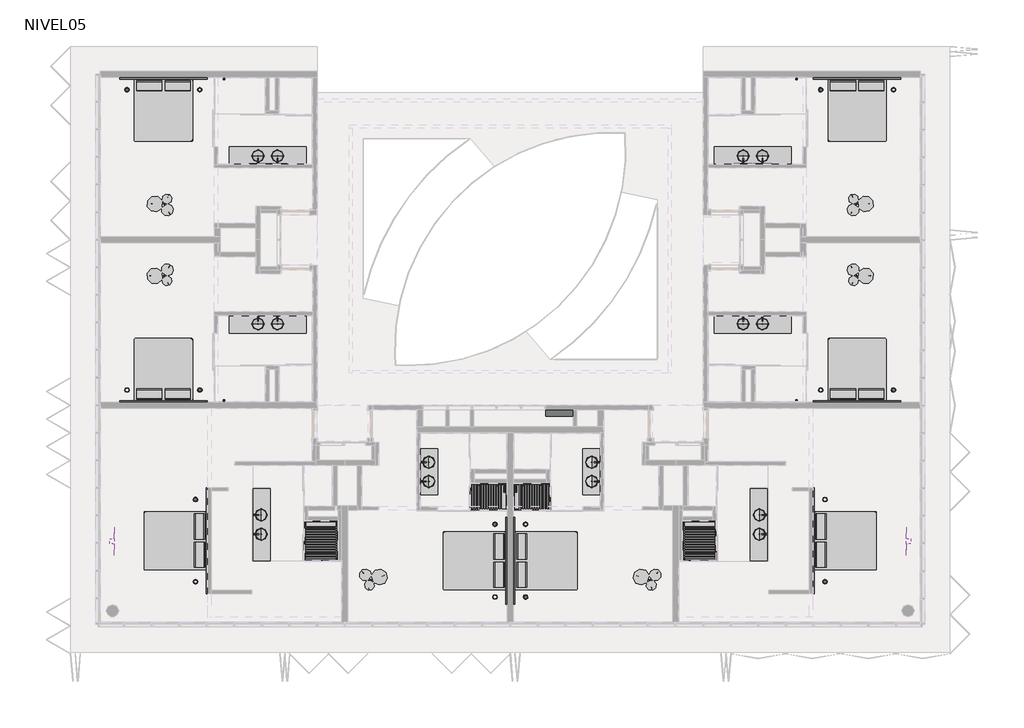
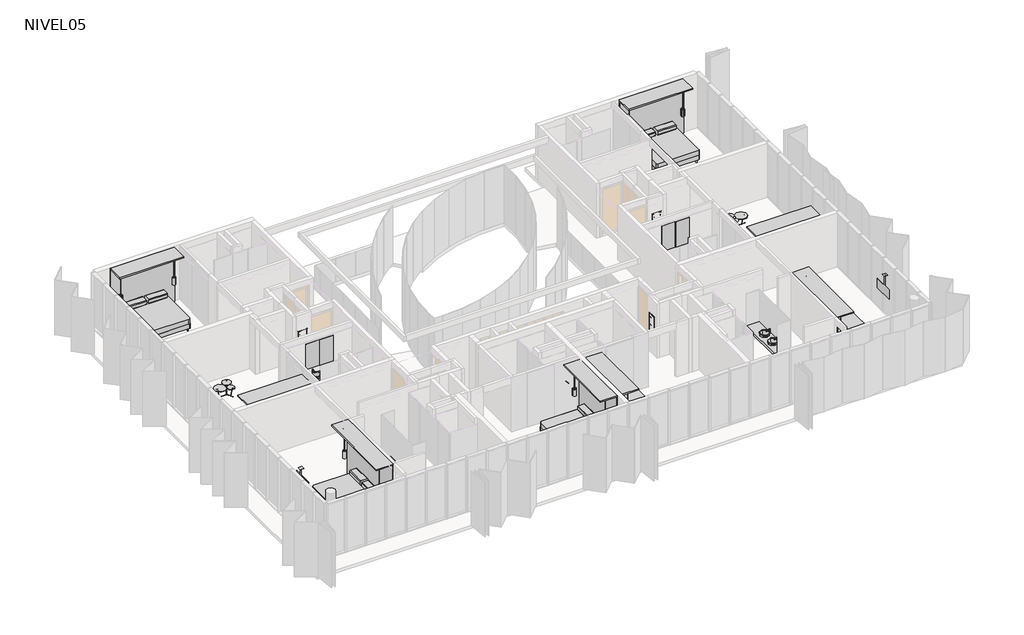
# One storey, part 8 of 8: 63 flow terminals, 16 light fixtures, 14 furniture elements, 10 proxies, 4 beams.
"""IFC4 building model written with IfcOpenShell, lengths in millimetres."""

from ifc_helpers import new_model, si_unit, frame, origin, place, context, project, spatial, polyline, outline, extrude, transform, mapped, element, save
from components import proxy_f2abb529, proxy_77f56c46, gw40109_410x878x160_c00fe912, gw40109_410x878x160_de583994, flow_terminal_0c8ecf02, flow_terminal_b279ac32, flow_terminal_ed776ef0, flow_terminal_606d7820, flow_terminal_b09b52e7, flow_terminal_6561b867, flow_terminal_bd7e037a, flow_terminal_74c15a22, flow_terminal_776c35a8, flow_terminal_72b990a2, flow_terminal_ff75b144, flow_terminal_cd0a1a3c, flow_terminal_6d8cc725, flow_terminal_ec843122, flow_terminal_4fa0bb3f, flow_terminal_b75d90eb, flow_terminal_60x_120_5cc20310, flow_terminal_60x_120_ec79c8a1, bottle_trap_flow_star_s_chrome_1cd5e6a8, bottle_trap_flow_star_s_chrome_f36f63c9, bottle_trap_flow_star_s_chrome_bf7072b5, bottle_trap_flow_star_s_chrome_7d8e5f45, gf_shower_mixer_5467fb75, gf_shower_mixer_4253410c, type_1_5bda6d84, furniture_922720f4, furniture_a362b857, furniture_83d6330f, furniture_52f5ca33, bubble_e683490c, bubble_cea61c99, lighting_fixture_pendant_contech_lighting_ci6_not_a_type_87ea05c9, lighting_fixture_pendant_contech_lighting_ci6_not_a_type_9c6e3dd4

model = new_model("IFC4")

# Units and contexts
model_context = context("Model", 3, world=origin())
ifc_project = project(units=[si_unit("LENGTHUNIT", "METRE", prefix="MILLI")], contexts=[model_context])

# Site, building, storey
site = spatial("IfcSite", under=ifc_project)
building = spatial("IfcBuilding", under=site)
storey = spatial("IfcBuildingStorey", under=building, Name="NIVEL05", Elevation=10660.0)

# Beams
placement = place(None, origin())
element("IfcBeam", 1, ObjectType="H-A- VIGAS RECTANGULARES : V. 40/30", at=placement, inside=storey, context=model_context, shape_type="SweptSolid", body=[
    extrude(outline(polyline([(-19978.5934748, 5233.9139241), (-20378.5934748, 5233.9139241), (-20378.5934748, 10433.9139241), (-19978.5934748, 10433.9139241), (-19978.5934748, 5233.9139241)])), frame((0.0, 0.0, 10340.0), z_axis=(0.0, 0.0, 1.0), x_axis=(1.0, 0.0, 0.0)), (0.0, 0.0, 1.0), 300.0),
])
element("IfcBeam", 2, ObjectType="H-A- VIGAS RECTANGULARES : V. 40/30", at=placement, inside=storey, context=model_context, shape_type="SweptSolid", body=[
    extrude(outline(polyline([(5611.4065252, 5233.9139241), (5611.4065252, 10433.9139241), (6011.4065252, 10433.9139241), (6011.4065252, 5233.9139241), (5611.4065252, 5233.9139241)])), frame((0.0, 0.0, 10340.0), z_axis=(0.0, 0.0, 1.0), x_axis=(1.0, 0.0, 0.0)), (0.0, 0.0, 1.0), 300.0),
])
element("IfcBeam", 3, ObjectType="H-A- VIGAS RECTANGULARES : V. 40/30", at=placement, inside=storey, context=model_context, shape_type="SweptSolid", body=[
    extrude(outline(polyline([(-19978.5934748, 5233.9139241), (-19978.5934748, -166.0860759), (-20378.5934748, -166.0860759), (-20378.5934748, 5233.9139241), (-19978.5934748, 5233.9139241)])), frame((0.0, 0.0, 10340.0), z_axis=(0.0, 0.0, 1.0), x_axis=(1.0, 0.0, 0.0)), (0.0, 0.0, 1.0), 300.0),
])
element("IfcBeam", 4, ObjectType="H-A- VIGAS RECTANGULARES : V. 40/30", at=placement, inside=storey, context=model_context, shape_type="SweptSolid", body=[
    extrude(outline(polyline([(5611.4065252, 5233.9139241), (6011.4065252, 5233.9139241), (6011.4065252, -166.0860759), (5611.4065252, -166.0860759), (5611.4065252, 5233.9139241)])), frame((0.0, 0.0, 10340.0), z_axis=(0.0, 0.0, 1.0), x_axis=(1.0, 0.0, 0.0)), (0.0, 0.0, 1.0), 300.0),
])

# Proxies
proxy_shape = proxy_f2abb529(model_context)
element("IfcBuildingElementProxy", 5, Name="A5215 - Bracket, Television, Ceiling Mounted 36 x 6 : A5215 - Bracket, Television, Ceiling Mounted 36\"x 6\"", ObjectType="A5215 - Bracket, Television, Ceiling Mounted 36 x 6 : A5215 - Bracket, Television, Ceiling Mounted 36\"x 6\"", at=placement, inside=storey, context=model_context, shape_type="MappedRepresentation", body=[
    mapped(proxy_shape, transform((6192.4065252, -5081.9984384, 12196.4), x_axis=(0.0, -1.0, 0.0), y_axis=(1.0, 0.0, 0.0), z_axis=(0.0, 0.0, 1.0))),
])
proxy_2_shape = proxy_77f56c46(model_context)
element("IfcBuildingElementProxy", 6, Name="A5215 - Bracket, Television, Ceiling Mounted 36 x 6 : A5215 - Bracket, Television, Ceiling Mounted 36\"x 6\"", ObjectType="A5215 - Bracket, Television, Ceiling Mounted 36 x 6 : A5215 - Bracket, Television, Ceiling Mounted 36\"x 6\"", at=placement, inside=storey, context=model_context, shape_type="MappedRepresentation", body=[
    mapped(proxy_2_shape, transform((-20559.5934748, -5081.9984384, 12196.4), x_axis=(0.0, -1.0, 0.0), y_axis=(1.0, 0.0, 0.0), z_axis=(0.0, 0.0, 1.0))),
])
gw40109_410x878x160_shape = gw40109_410x878x160_c00fe912(model_context)
element("IfcBuildingElementProxy", 7, Name="Building-ContenitoriParete-GEWISS-40CDK-CENTRALINI_IP65_4X : GW40109 - 410x878x160", ObjectType="Building-ContenitoriParete-GEWISS-40CDK-CENTRALINI_IP65_4X : GW40109 - 410x878x160", at=placement, inside=storey, context=model_context, shape_type="MappedRepresentation", body=[
    mapped(gw40109_410x878x160_shape, transform((-2718.5934748, -1918.4487945, 11410.0), x_axis=(0.0, 1.0, 0.0), y_axis=(-1.0, 0.0, 0.0), z_axis=(0.0, 0.0, 1.0))),
])
gw40109_410x878x160_2_shape = gw40109_410x878x160_de583994(model_context)
element("IfcBuildingElementProxy", 8, Name="Building-ContenitoriParete-GEWISS-40CDK-CENTRALINI_IP65_4X : GW40109 - 410x878x160", ObjectType="Building-ContenitoriParete-GEWISS-40CDK-CENTRALINI_IP65_4X : GW40109 - 410x878x160", at=placement, inside=storey, context=model_context, shape_type="MappedRepresentation", body=[
    mapped(gw40109_410x878x160_2_shape, transform((-11648.5934748, -1918.4487945, 11410.0), x_axis=(0.0, 1.0, 0.0), y_axis=(-1.0, 0.0, 0.0), z_axis=(0.0, 0.0, 1.0))),
])
element("IfcBuildingElementProxy", 9, Name="Building-ContenitoriParete-GEWISS-40CDK-CENTRALINI_IP65_4X : GW40109 - 410x878x160", ObjectType="Building-ContenitoriParete-GEWISS-40CDK-CENTRALINI_IP65_4X : GW40109 - 410x878x160", at=placement, inside=storey, context=model_context, shape_type="MappedRepresentation", body=[
    mapped(gw40109_410x878x160_shape, transform((-888.5934748, -1668.4487945, 11410.0), x_axis=(0.0, -1.0, 0.0), y_axis=(1.0, 0.0, 0.0), z_axis=(0.0, 0.0, 1.0))),
])
element("IfcBuildingElementProxy", 10, Name="Building-ContenitoriParete-GEWISS-40CDK-CENTRALINI_IP65_4X : GW40109 - 410x878x160", ObjectType="Building-ContenitoriParete-GEWISS-40CDK-CENTRALINI_IP65_4X : GW40109 - 410x878x160", at=placement, inside=storey, context=model_context, shape_type="MappedRepresentation", body=[
    mapped(gw40109_410x878x160_shape, transform((572.0878844, 6068.9139241, 11410.0), x_axis=(1.0, 0.0, 0.0), y_axis=(0.0, 1.0, 0.0), z_axis=(0.0, 0.0, 1.0))),
])
element("IfcBuildingElementProxy", 11, Name="Building-ContenitoriParete-GEWISS-40CDK-CENTRALINI_IP65_4X : GW40109 - 410x878x160", ObjectType="Building-ContenitoriParete-GEWISS-40CDK-CENTRALINI_IP65_4X : GW40109 - 410x878x160", at=placement, inside=storey, context=model_context, shape_type="MappedRepresentation", body=[
    mapped(gw40109_410x878x160_shape, transform((-14939.2748341, 4198.9139241, 11410.0), x_axis=(-1.0, 0.0, 0.0), y_axis=(0.0, -1.0, 0.0), z_axis=(0.0, 0.0, 1.0))),
])
element("IfcBuildingElementProxy", 12, Name="Building-ContenitoriParete-GEWISS-40CDK-CENTRALINI_IP65_4X : GW40109 - 410x878x160", ObjectType="Building-ContenitoriParete-GEWISS-40CDK-CENTRALINI_IP65_4X : GW40109 - 410x878x160", at=placement, inside=storey, context=model_context, shape_type="MappedRepresentation", body=[
    mapped(gw40109_410x878x160_2_shape, transform((-13478.5934748, -1668.4487945, 11410.0), x_axis=(0.0, -1.0, 0.0), y_axis=(1.0, 0.0, 0.0), z_axis=(0.0, 0.0, 1.0))),
])
element("IfcBuildingElementProxy", 13, Name="Building-ContenitoriParete-GEWISS-40CDK-CENTRALINI_IP65_4X : GW40109 - 410x878x160", ObjectType="Building-ContenitoriParete-GEWISS-40CDK-CENTRALINI_IP65_4X : GW40109 - 410x878x160", at=placement, inside=storey, context=model_context, shape_type="MappedRepresentation", body=[
    mapped(gw40109_410x878x160_2_shape, transform((-14939.2748341, 6068.9139241, 11410.0), x_axis=(-1.0, 0.0, 0.0), y_axis=(0.0, -1.0, 0.0), z_axis=(0.0, 0.0, 1.0))),
])
element("IfcBuildingElementProxy", 14, Name="Building-ContenitoriParete-GEWISS-40CDK-CENTRALINI_IP65_4X : GW40109 - 410x878x160", ObjectType="Building-ContenitoriParete-GEWISS-40CDK-CENTRALINI_IP65_4X : GW40109 - 410x878x160", at=placement, inside=storey, context=model_context, shape_type="MappedRepresentation", body=[
    mapped(gw40109_410x878x160_2_shape, transform((572.0878844, 4198.9139241, 11410.0), x_axis=(1.0, 0.0, 0.0), y_axis=(0.0, 1.0, 0.0), z_axis=(0.0, 0.0, 1.0))),
])

# Flow terminals
flow_terminal_shape = flow_terminal_0c8ecf02(model_context)
element("IfcFlowTerminal", 15, ObjectType="Sanitary_Shower-trays_Cosentino_Kador : Kador_130*125", at=placement, inside=storey, context=model_context, shape_type="MappedRepresentation", body=[
    mapped(flow_terminal_shape, transform((-13363.5934748, -4686.0862189, 10660.0), x_axis=(0.0, -1.0, 0.0), y_axis=(1.0, 0.0, 0.0), z_axis=(0.0, 0.0, 1.0))),
])
flow_terminal_2_shape = flow_terminal_b279ac32(model_context)
element("IfcFlowTerminal", 16, ObjectType="Sanitary_Shower-trays_Cosentino_Kador : Kador_130*125", at=placement, inside=storey, context=model_context, shape_type="MappedRepresentation", body=[
    mapped(flow_terminal_2_shape, transform((-1003.5934748, -4686.0862189, 10660.0), x_axis=(0.0, -1.0, 0.0), y_axis=(1.0, 0.0, 0.0), z_axis=(0.0, 0.0, 1.0))),
])
flow_terminal_3_shape = flow_terminal_ed776ef0(model_context)
element("IfcFlowTerminal", 17, ObjectType="Sanitary_Shower-trays_Cosentino_Kador : Kador_130*125", at=placement, inside=storey, context=model_context, shape_type="MappedRepresentation", body=[
    mapped(flow_terminal_3_shape, transform((-7883.5934748, -3256.0362189, 10660.0), x_axis=(-1.0, 0.0, 0.0), y_axis=(0.0, -1.0, 0.0), z_axis=(0.0, 0.0, 1.0))),
])
flow_terminal_4_shape = flow_terminal_606d7820(model_context)
element("IfcFlowTerminal", 18, ObjectType="Sanitary_Shower-trays_Cosentino_Kador : Kador_130*125", at=placement, inside=storey, context=model_context, shape_type="MappedRepresentation", body=[
    mapped(flow_terminal_4_shape, transform((-6483.5934748, -3256.0362189, 10660.0), x_axis=(1.0, 0.0, 0.0), y_axis=(0.0, 1.0, 0.0), z_axis=(0.0, 0.0, 1.0))),
])
flow_terminal_5_shape = flow_terminal_b09b52e7(model_context)
element("IfcFlowTerminal", 19, ObjectType="CUBIERTA BAÑO : CUBIERTA BAÑO 150CM", at=placement, inside=storey, context=model_context, shape_type="MappedRepresentation", body=[
    mapped(flow_terminal_5_shape, transform((-10123.5934748, -2480.7864739, 10660.0), x_axis=(0.0, 1.0, 0.0), y_axis=(-1.0, 0.0, 0.0), z_axis=(0.0, 0.0, 1.0))),
])
flow_terminal_6_shape = flow_terminal_6561b867(model_context)
element("IfcFlowTerminal", 20, ObjectType="CUBIERTA BAÑO : CUBIERTA BAÑO 250CM", at=placement, inside=storey, context=model_context, shape_type="MappedRepresentation", body=[
    mapped(flow_terminal_6_shape, transform((776.1068516, 7593.9139241, 10640.0), x_axis=(-1.0, 0.0, 0.0), y_axis=(0.0, -1.0, 0.0), z_axis=(0.0, 0.0, 1.0))),
])
element("IfcFlowTerminal", 21, ObjectType="CUBIERTA BAÑO : CUBIERTA BAÑO 250CM", at=placement, inside=storey, context=model_context, shape_type="MappedRepresentation", body=[
    mapped(flow_terminal_6_shape, transform((-15143.2938013, 2673.9139241, 10640.0), x_axis=(1.0, 0.0, 0.0), y_axis=(0.0, 1.0, 0.0), z_axis=(0.0, 0.0, 1.0))),
])
flow_terminal_7_shape = flow_terminal_bd7e037a(model_context)
element("IfcFlowTerminal", 22, ObjectType="GF_TINA-LAVAMANOS : MEZCLADOR MONOMANDO DE LAVABO - MINUSVALIDOS", at=placement, inside=storey, context=model_context, shape_type="MappedRepresentation", body=[
    mapped(flow_terminal_7_shape, transform((-10073.5934748, -2751.0861474, 11410.0), x_axis=(0.0, 1.0, 0.0), y_axis=(-1.0, 0.0, 0.0), z_axis=(0.0, 0.0, 1.0))),
])
element("IfcFlowTerminal", 23, ObjectType="GF_TINA-LAVAMANOS : MEZCLADOR MONOMANDO DE LAVABO - MINUSVALIDOS", at=placement, inside=storey, context=model_context, shape_type="MappedRepresentation", body=[
    mapped(flow_terminal_7_shape, transform((-10073.5934748, -2121.0861474, 11410.0), x_axis=(0.0, 1.0, 0.0), y_axis=(-1.0, 0.0, 0.0), z_axis=(0.0, 0.0, 1.0))),
])
element("IfcFlowTerminal", 24, ObjectType="GF_TINA-LAVAMANOS : MEZCLADOR MONOMANDO DE LAVABO - MINUSVALIDOS", at=placement, inside=storey, context=model_context, shape_type="MappedRepresentation", body=[
    mapped(flow_terminal_7_shape, transform((-15543.5934748, -4471.0860763, 11410.0), x_axis=(0.0, 1.0, 0.0), y_axis=(-1.0, 0.0, 0.0), z_axis=(0.0, 0.0, 1.0))),
])
element("IfcFlowTerminal", 25, ObjectType="GF_TINA-LAVAMANOS : MEZCLADOR MONOMANDO DE LAVABO - MINUSVALIDOS", at=placement, inside=storey, context=model_context, shape_type="MappedRepresentation", body=[
    mapped(flow_terminal_7_shape, transform((-15543.5934748, -3841.0860763, 11410.0), x_axis=(0.0, 1.0, 0.0), y_axis=(-1.0, 0.0, 0.0), z_axis=(0.0, 0.0, 1.0))),
])
element("IfcFlowTerminal", 26, ObjectType="GF_TINA-LAVAMANOS : MEZCLADOR MONOMANDO DE LAVABO - MINUSVALIDOS", at=placement, inside=storey, context=model_context, shape_type="MappedRepresentation", body=[
    mapped(flow_terminal_7_shape, transform((1046.4065252, 7643.9139241, 11390.0), x_axis=(-1.0, 0.0, 0.0), y_axis=(0.0, -1.0, 0.0), z_axis=(0.0, 0.0, 1.0))),
])
element("IfcFlowTerminal", 27, ObjectType="GF_TINA-LAVAMANOS : MEZCLADOR MONOMANDO DE LAVABO - MINUSVALIDOS", at=placement, inside=storey, context=model_context, shape_type="MappedRepresentation", body=[
    mapped(flow_terminal_7_shape, transform((416.4065252, 7643.9139241, 11390.0), x_axis=(-1.0, 0.0, 0.0), y_axis=(0.0, -1.0, 0.0), z_axis=(0.0, 0.0, 1.0))),
])
element("IfcFlowTerminal", 28, ObjectType="GF_TINA-LAVAMANOS : MEZCLADOR MONOMANDO DE LAVABO - MINUSVALIDOS", at=placement, inside=storey, context=model_context, shape_type="MappedRepresentation", body=[
    mapped(flow_terminal_7_shape, transform((-15413.5934748, 2623.9139241, 11390.0), x_axis=(1.0, 0.0, 0.0), y_axis=(0.0, 1.0, 0.0), z_axis=(0.0, 0.0, 1.0))),
])
element("IfcFlowTerminal", 29, ObjectType="GF_TINA-LAVAMANOS : MEZCLADOR MONOMANDO DE LAVABO - MINUSVALIDOS", at=placement, inside=storey, context=model_context, shape_type="MappedRepresentation", body=[
    mapped(flow_terminal_7_shape, transform((-14783.5934748, 2623.9139241, 11390.0), x_axis=(1.0, 0.0, 0.0), y_axis=(0.0, 1.0, 0.0), z_axis=(0.0, 0.0, 1.0))),
])
flow_terminal_8_shape = flow_terminal_74c15a22(model_context)
element("IfcFlowTerminal", 30, ObjectType="GF_TINA-LAVAMANOS : MEZCLADOR MONOMANDO DE LAVABO - MINUSVALIDOS", at=placement, inside=storey, context=model_context, shape_type="MappedRepresentation", body=[
    mapped(flow_terminal_8_shape, transform((-15413.5934748, 7643.9139241, 11390.0), x_axis=(1.0, 0.0, 0.0), y_axis=(0.0, 1.0, 0.0), z_axis=(0.0, 0.0, 1.0))),
])
element("IfcFlowTerminal", 31, ObjectType="GF_TINA-LAVAMANOS : MEZCLADOR MONOMANDO DE LAVABO - MINUSVALIDOS", at=placement, inside=storey, context=model_context, shape_type="MappedRepresentation", body=[
    mapped(flow_terminal_8_shape, transform((-14783.5934748, 7643.9139241, 11390.0), x_axis=(1.0, 0.0, 0.0), y_axis=(0.0, 1.0, 0.0), z_axis=(0.0, 0.0, 1.0))),
])
element("IfcFlowTerminal", 32, ObjectType="GF_TINA-LAVAMANOS : MEZCLADOR MONOMANDO DE LAVABO - MINUSVALIDOS", at=placement, inside=storey, context=model_context, shape_type="MappedRepresentation", body=[
    mapped(flow_terminal_8_shape, transform((-4293.5934748, -2751.0861474, 11410.0), x_axis=(0.0, 1.0, 0.0), y_axis=(-1.0, 0.0, 0.0), z_axis=(0.0, 0.0, 1.0))),
])
element("IfcFlowTerminal", 33, ObjectType="GF_TINA-LAVAMANOS : MEZCLADOR MONOMANDO DE LAVABO - MINUSVALIDOS", at=placement, inside=storey, context=model_context, shape_type="MappedRepresentation", body=[
    mapped(flow_terminal_8_shape, transform((-4293.5934748, -2121.0861474, 11410.0), x_axis=(0.0, 1.0, 0.0), y_axis=(-1.0, 0.0, 0.0), z_axis=(0.0, 0.0, 1.0))),
])
element("IfcFlowTerminal", 34, ObjectType="GF_TINA-LAVAMANOS : MEZCLADOR MONOMANDO DE LAVABO - MINUSVALIDOS", at=placement, inside=storey, context=model_context, shape_type="MappedRepresentation", body=[
    mapped(flow_terminal_8_shape, transform((1176.4065252, -4471.0860763, 11410.0), x_axis=(0.0, 1.0, 0.0), y_axis=(-1.0, 0.0, 0.0), z_axis=(0.0, 0.0, 1.0))),
])
element("IfcFlowTerminal", 35, ObjectType="GF_TINA-LAVAMANOS : MEZCLADOR MONOMANDO DE LAVABO - MINUSVALIDOS", at=placement, inside=storey, context=model_context, shape_type="MappedRepresentation", body=[
    mapped(flow_terminal_8_shape, transform((1176.4065252, -3841.0860763, 11410.0), x_axis=(0.0, 1.0, 0.0), y_axis=(-1.0, 0.0, 0.0), z_axis=(0.0, 0.0, 1.0))),
])
element("IfcFlowTerminal", 36, ObjectType="GF_TINA-LAVAMANOS : MEZCLADOR MONOMANDO DE LAVABO - MINUSVALIDOS", at=placement, inside=storey, context=model_context, shape_type="MappedRepresentation", body=[
    mapped(flow_terminal_8_shape, transform((1046.4065252, 2623.9139241, 11390.0), x_axis=(-1.0, 0.0, 0.0), y_axis=(0.0, -1.0, 0.0), z_axis=(0.0, 0.0, 1.0))),
])
element("IfcFlowTerminal", 37, ObjectType="GF_TINA-LAVAMANOS : MEZCLADOR MONOMANDO DE LAVABO - MINUSVALIDOS", at=placement, inside=storey, context=model_context, shape_type="MappedRepresentation", body=[
    mapped(flow_terminal_8_shape, transform((416.4065252, 2623.9139241, 11390.0), x_axis=(-1.0, 0.0, 0.0), y_axis=(0.0, -1.0, 0.0), z_axis=(0.0, 0.0, 1.0))),
])
flow_terminal_9_shape = flow_terminal_776c35a8(model_context)
element("IfcFlowTerminal", 38, ObjectType="CUBIERTA BAÑO : CUBIERTA BAÑO 238CM", at=placement, inside=storey, context=model_context, shape_type="MappedRepresentation", body=[
    mapped(flow_terminal_9_shape, transform((-15593.5934748, -4200.7864027, 10660.0), x_axis=(0.0, 1.0, 0.0), y_axis=(-1.0, 0.0, 0.0), z_axis=(0.0, 0.0, 1.0))),
])
flow_terminal_10_shape = flow_terminal_72b990a2(model_context)
element("IfcFlowTerminal", 39, ObjectType="jabonera rejilla : jabonera rejilla", at=placement, inside=storey, context=model_context, shape_type="MappedRepresentation", body=[
    mapped(flow_terminal_10_shape, transform((-7293.5934748, -3006.0862189, 11610.0), x_axis=(0.0, -1.0, 0.0), y_axis=(1.0, 0.0, 0.0), z_axis=(0.0, 0.0, 1.0))),
])
flow_terminal_11_shape = flow_terminal_ff75b144(model_context)
element("IfcFlowTerminal", 40, ObjectType="CUBIERTA BAÑO : CUBIERTA BAÑO 150CM", at=placement, inside=storey, context=model_context, shape_type="MappedRepresentation", body=[
    mapped(flow_terminal_11_shape, transform((-4243.5934748, -2480.7864739, 10660.0), x_axis=(0.0, 1.0, 0.0), y_axis=(-1.0, 0.0, 0.0), z_axis=(0.0, 0.0, 1.0))),
])
flow_terminal_12_shape = flow_terminal_cd0a1a3c(model_context)
element("IfcFlowTerminal", 41, ObjectType="CUBIERTA BAÑO : CUBIERTA BAÑO 250CM", at=placement, inside=storey, context=model_context, shape_type="MappedRepresentation", body=[
    mapped(flow_terminal_12_shape, transform((-15143.2938013, 7593.9139241, 10640.0), x_axis=(1.0, 0.0, 0.0), y_axis=(0.0, 1.0, 0.0), z_axis=(0.0, 0.0, 1.0))),
])
element("IfcFlowTerminal", 42, ObjectType="CUBIERTA BAÑO : CUBIERTA BAÑO 250CM", at=placement, inside=storey, context=model_context, shape_type="MappedRepresentation", body=[
    mapped(flow_terminal_12_shape, transform((776.1068516, 2673.9139241, 10640.0), x_axis=(-1.0, 0.0, 0.0), y_axis=(0.0, -1.0, 0.0), z_axis=(0.0, 0.0, 1.0))),
])
flow_terminal_13_shape = flow_terminal_6d8cc725(model_context)
element("IfcFlowTerminal", 43, ObjectType="CUBIERTA BAÑO : CUBIERTA BAÑO 238CM", at=placement, inside=storey, context=model_context, shape_type="MappedRepresentation", body=[
    mapped(flow_terminal_13_shape, transform((1226.4065252, -4200.7864027, 10660.0), x_axis=(0.0, 1.0, 0.0), y_axis=(-1.0, 0.0, 0.0), z_axis=(0.0, 0.0, 1.0))),
])
flow_terminal_14_shape = flow_terminal_ec843122(model_context)
element("IfcFlowTerminal", 44, ObjectType="GrapBar-60cm-Vitra-OtherSeries-320-3010 : SupportRail-Vitra-OtherSeries-320-3010", at=placement, inside=storey, context=model_context, shape_type="MappedRepresentation", body=[
    mapped(flow_terminal_14_shape, transform((-7623.5047394, -2806.0860759, 12020.0), x_axis=(-1.0, 0.0, 0.0), y_axis=(0.0, 0.0, -1.0), z_axis=(0.0, -1.0, 0.0))),
])
flow_terminal_15_shape = flow_terminal_4fa0bb3f(model_context)
element("IfcFlowTerminal", 45, ObjectType="jabonera rejilla : jabonera rejilla", at=placement, inside=storey, context=model_context, shape_type="MappedRepresentation", body=[
    mapped(flow_terminal_15_shape, transform((-7073.5934748, -3006.0862189, 11610.0), x_axis=(0.0, -1.0, 0.0), y_axis=(1.0, 0.0, 0.0), z_axis=(0.0, 0.0, 1.0))),
])
flow_terminal_16_shape = flow_terminal_b75d90eb(model_context)
element("IfcFlowTerminal", 46, ObjectType="GrapBar-60cm-Vitra-OtherSeries-320-3010 : SupportRail-Vitra-OtherSeries-320-3010", at=placement, inside=storey, context=model_context, shape_type="MappedRepresentation", body=[
    mapped(flow_terminal_16_shape, transform((-6743.6822103, -2806.0860759, 12020.0), x_axis=(1.0, 0.0, 0.0), y_axis=(0.0, 0.0, 1.0), z_axis=(0.0, -1.0, 0.0))),
])
flow_terminal_60x_120_shape = flow_terminal_60x_120_5cc20310(model_context)
element("IfcFlowTerminal", 47, ObjectType="ESPEJO RECTANGULAR : 60x 120", at=placement, inside=storey, context=model_context, shape_type="MappedRepresentation", body=[
    mapped(flow_terminal_60x_120_shape, transform((-15413.5934748, 7598.9139241, 11060.0), x_axis=(1.0, 0.0, 0.0), y_axis=(0.0, 1.0, 0.0), z_axis=(0.0, 0.0, 1.0))),
])
element("IfcFlowTerminal", 48, ObjectType="ESPEJO RECTANGULAR : 60x 120", at=placement, inside=storey, context=model_context, shape_type="MappedRepresentation", body=[
    mapped(flow_terminal_60x_120_shape, transform((-14783.5934748, 7598.9139241, 11060.0), x_axis=(1.0, 0.0, 0.0), y_axis=(0.0, 1.0, 0.0), z_axis=(0.0, 0.0, 1.0))),
])
element("IfcFlowTerminal", 49, ObjectType="ESPEJO RECTANGULAR : 60x 120", at=placement, inside=storey, context=model_context, shape_type="MappedRepresentation", body=[
    mapped(flow_terminal_60x_120_shape, transform((1046.4065252, 2668.9139241, 11060.0), x_axis=(-1.0, 0.0, 0.0), y_axis=(0.0, -1.0, 0.0), z_axis=(0.0, 0.0, 1.0))),
])
element("IfcFlowTerminal", 50, ObjectType="ESPEJO RECTANGULAR : 60x 120", at=placement, inside=storey, context=model_context, shape_type="MappedRepresentation", body=[
    mapped(flow_terminal_60x_120_shape, transform((416.4065252, 2668.9139241, 11060.0), x_axis=(-1.0, 0.0, 0.0), y_axis=(0.0, -1.0, 0.0), z_axis=(0.0, 0.0, 1.0))),
])
flow_terminal_60x_120_2_shape = flow_terminal_60x_120_ec79c8a1(model_context)
element("IfcFlowTerminal", 51, ObjectType="ESPEJO RECTANGULAR : 60x 120", at=placement, inside=storey, context=model_context, shape_type="MappedRepresentation", body=[
    mapped(flow_terminal_60x_120_2_shape, transform((1046.4065252, 7598.9139241, 11060.0), x_axis=(-1.0, 0.0, 0.0), y_axis=(0.0, -1.0, 0.0), z_axis=(0.0, 0.0, 1.0))),
])
element("IfcFlowTerminal", 52, ObjectType="ESPEJO RECTANGULAR : 60x 120", at=placement, inside=storey, context=model_context, shape_type="MappedRepresentation", body=[
    mapped(flow_terminal_60x_120_2_shape, transform((416.4065252, 7598.9139241, 11060.0), x_axis=(-1.0, 0.0, 0.0), y_axis=(0.0, -1.0, 0.0), z_axis=(0.0, 0.0, 1.0))),
])
element("IfcFlowTerminal", 53, ObjectType="ESPEJO RECTANGULAR : 60x 120", at=placement, inside=storey, context=model_context, shape_type="MappedRepresentation", body=[
    mapped(flow_terminal_60x_120_2_shape, transform((-15413.5934748, 2668.9139241, 11060.0), x_axis=(1.0, 0.0, 0.0), y_axis=(0.0, 1.0, 0.0), z_axis=(0.0, 0.0, 1.0))),
])
element("IfcFlowTerminal", 54, ObjectType="ESPEJO RECTANGULAR : 60x 120", at=placement, inside=storey, context=model_context, shape_type="MappedRepresentation", body=[
    mapped(flow_terminal_60x_120_2_shape, transform((-14783.5934748, 2668.9139241, 11060.0), x_axis=(1.0, 0.0, 0.0), y_axis=(0.0, 1.0, 0.0), z_axis=(0.0, 0.0, 1.0))),
])
bottle_trap_flow_star_s_chrome_shape = bottle_trap_flow_star_s_chrome_1cd5e6a8(model_context)
element("IfcFlowTerminal", 55, ObjectType="GF_SIFON-VESILUKKO FLOWSTAR S KROMI : Bottle trap Flow Star S chrome", at=placement, inside=storey, context=model_context, shape_type="MappedRepresentation", body=[
    mapped(bottle_trap_flow_star_s_chrome_shape, transform((-9843.5934748, -2121.0861474, 10968.0), x_axis=(1.0, 0.0, 0.0), y_axis=(0.0, 1.0, 0.0), z_axis=(0.0, 0.0, 1.0))),
])
element("IfcFlowTerminal", 56, ObjectType="GF_SIFON-VESILUKKO FLOWSTAR S KROMI : Bottle trap Flow Star S chrome", at=placement, inside=storey, context=model_context, shape_type="MappedRepresentation", body=[
    mapped(bottle_trap_flow_star_s_chrome_shape, transform((-9843.5934748, -2751.0861474, 10968.0), x_axis=(1.0, 0.0, 0.0), y_axis=(0.0, 1.0, 0.0), z_axis=(0.0, 0.0, 1.0))),
])
element("IfcFlowTerminal", 57, ObjectType="GF_SIFON-VESILUKKO FLOWSTAR S KROMI : Bottle trap Flow Star S chrome", at=placement, inside=storey, context=model_context, shape_type="MappedRepresentation", body=[
    mapped(bottle_trap_flow_star_s_chrome_shape, transform((416.4065252, 7873.9139241, 10948.0), x_axis=(0.0, 1.0, 0.0), y_axis=(-1.0, 0.0, 0.0), z_axis=(0.0, 0.0, 1.0))),
])
element("IfcFlowTerminal", 58, ObjectType="GF_SIFON-VESILUKKO FLOWSTAR S KROMI : Bottle trap Flow Star S chrome", at=placement, inside=storey, context=model_context, shape_type="MappedRepresentation", body=[
    mapped(bottle_trap_flow_star_s_chrome_shape, transform((1046.4065252, 7873.9139241, 10948.0), x_axis=(0.0, 1.0, 0.0), y_axis=(-1.0, 0.0, 0.0), z_axis=(0.0, 0.0, 1.0))),
])
element("IfcFlowTerminal", 59, ObjectType="GF_SIFON-VESILUKKO FLOWSTAR S KROMI : Bottle trap Flow Star S chrome", at=placement, inside=storey, context=model_context, shape_type="MappedRepresentation", body=[
    mapped(bottle_trap_flow_star_s_chrome_shape, transform((-14783.5934748, 2393.9139241, 10948.0), x_axis=(0.0, -1.0, 0.0), y_axis=(1.0, 0.0, 0.0), z_axis=(0.0, 0.0, 1.0))),
])
element("IfcFlowTerminal", 60, ObjectType="GF_SIFON-VESILUKKO FLOWSTAR S KROMI : Bottle trap Flow Star S chrome", at=placement, inside=storey, context=model_context, shape_type="MappedRepresentation", body=[
    mapped(bottle_trap_flow_star_s_chrome_shape, transform((-15413.5934748, 2393.9139241, 10948.0), x_axis=(0.0, -1.0, 0.0), y_axis=(1.0, 0.0, 0.0), z_axis=(0.0, 0.0, 1.0))),
])
bottle_trap_flow_star_s_chrome_2_shape = bottle_trap_flow_star_s_chrome_f36f63c9(model_context)
element("IfcFlowTerminal", 61, ObjectType="GF_SIFON-VESILUKKO FLOWSTAR S KROMI : Bottle trap Flow Star S chrome", at=placement, inside=storey, context=model_context, shape_type="MappedRepresentation", body=[
    mapped(bottle_trap_flow_star_s_chrome_2_shape, transform((-14783.5934748, 7873.9139241, 10948.0), x_axis=(0.0, 1.0, 0.0), y_axis=(-1.0, 0.0, 0.0), z_axis=(0.0, 0.0, 1.0))),
])
element("IfcFlowTerminal", 62, ObjectType="GF_SIFON-VESILUKKO FLOWSTAR S KROMI : Bottle trap Flow Star S chrome", at=placement, inside=storey, context=model_context, shape_type="MappedRepresentation", body=[
    mapped(bottle_trap_flow_star_s_chrome_2_shape, transform((-4523.5934748, -2121.0861474, 10968.0), x_axis=(-1.0, 0.0, 0.0), y_axis=(0.0, -1.0, 0.0), z_axis=(0.0, 0.0, 1.0))),
])
element("IfcFlowTerminal", 63, ObjectType="GF_SIFON-VESILUKKO FLOWSTAR S KROMI : Bottle trap Flow Star S chrome", at=placement, inside=storey, context=model_context, shape_type="MappedRepresentation", body=[
    mapped(bottle_trap_flow_star_s_chrome_2_shape, transform((-4523.5934748, -2751.0861474, 10968.0), x_axis=(-1.0, 0.0, 0.0), y_axis=(0.0, -1.0, 0.0), z_axis=(0.0, 0.0, 1.0))),
])
element("IfcFlowTerminal", 64, ObjectType="GF_SIFON-VESILUKKO FLOWSTAR S KROMI : Bottle trap Flow Star S chrome", at=placement, inside=storey, context=model_context, shape_type="MappedRepresentation", body=[
    mapped(bottle_trap_flow_star_s_chrome_2_shape, transform((-15413.5934748, 7873.9139241, 10948.0), x_axis=(0.0, 1.0, 0.0), y_axis=(-1.0, 0.0, 0.0), z_axis=(0.0, 0.0, 1.0))),
])
element("IfcFlowTerminal", 65, ObjectType="GF_SIFON-VESILUKKO FLOWSTAR S KROMI : Bottle trap Flow Star S chrome", at=placement, inside=storey, context=model_context, shape_type="MappedRepresentation", body=[
    mapped(bottle_trap_flow_star_s_chrome_2_shape, transform((416.4065252, 2393.9139241, 10948.0), x_axis=(0.0, -1.0, 0.0), y_axis=(1.0, 0.0, 0.0), z_axis=(0.0, 0.0, 1.0))),
])
element("IfcFlowTerminal", 66, ObjectType="GF_SIFON-VESILUKKO FLOWSTAR S KROMI : Bottle trap Flow Star S chrome", at=placement, inside=storey, context=model_context, shape_type="MappedRepresentation", body=[
    mapped(bottle_trap_flow_star_s_chrome_2_shape, transform((1046.4065252, 2393.9139241, 10948.0), x_axis=(0.0, -1.0, 0.0), y_axis=(1.0, 0.0, 0.0), z_axis=(0.0, 0.0, 1.0))),
])
bottle_trap_flow_star_s_chrome_3_shape = bottle_trap_flow_star_s_chrome_bf7072b5(model_context)
element("IfcFlowTerminal", 67, ObjectType="GF_SIFON-VESILUKKO FLOWSTAR S KROMI : Bottle trap Flow Star S chrome", at=placement, inside=storey, context=model_context, shape_type="MappedRepresentation", body=[
    mapped(bottle_trap_flow_star_s_chrome_3_shape, transform((946.4065252, -3841.0860763, 10968.0), x_axis=(-1.0, 0.0, 0.0), y_axis=(0.0, -1.0, 0.0), z_axis=(0.0, 0.0, 1.0))),
])
element("IfcFlowTerminal", 68, ObjectType="GF_SIFON-VESILUKKO FLOWSTAR S KROMI : Bottle trap Flow Star S chrome", at=placement, inside=storey, context=model_context, shape_type="MappedRepresentation", body=[
    mapped(bottle_trap_flow_star_s_chrome_3_shape, transform((946.4065252, -4471.0860763, 10968.0), x_axis=(-1.0, 0.0, 0.0), y_axis=(0.0, -1.0, 0.0), z_axis=(0.0, 0.0, 1.0))),
])
bottle_trap_flow_star_s_chrome_4_shape = bottle_trap_flow_star_s_chrome_7d8e5f45(model_context)
element("IfcFlowTerminal", 69, ObjectType="GF_SIFON-VESILUKKO FLOWSTAR S KROMI : Bottle trap Flow Star S chrome", at=placement, inside=storey, context=model_context, shape_type="MappedRepresentation", body=[
    mapped(bottle_trap_flow_star_s_chrome_4_shape, transform((-15313.5934748, -3841.0860763, 10968.0), x_axis=(1.0, 0.0, 0.0), y_axis=(0.0, 1.0, 0.0), z_axis=(0.0, 0.0, 1.0))),
])
element("IfcFlowTerminal", 70, ObjectType="GF_SIFON-VESILUKKO FLOWSTAR S KROMI : Bottle trap Flow Star S chrome", at=placement, inside=storey, context=model_context, shape_type="MappedRepresentation", body=[
    mapped(bottle_trap_flow_star_s_chrome_4_shape, transform((-15313.5934748, -4471.0860763, 10968.0), x_axis=(1.0, 0.0, 0.0), y_axis=(0.0, 1.0, 0.0), z_axis=(0.0, 0.0, 1.0))),
])
gf_shower_mixer_shape = gf_shower_mixer_5467fb75(model_context)
element("IfcFlowTerminal", 71, ObjectType="GF_SHOWER MIXER : Monomando ducha SPA", at=placement, inside=storey, context=model_context, shape_type="MappedRepresentation", body=[
    mapped(gf_shower_mixer_shape, transform((-16540.7120291, 10428.9139241, 10660.0), x_axis=(-1.0, 0.0, 0.0), y_axis=(0.0, -1.0, 0.0), z_axis=(0.0, 0.0, 1.0))),
])
element("IfcFlowTerminal", 72, ObjectType="GF_SHOWER MIXER : Monomando ducha SPA", at=placement, inside=storey, context=model_context, shape_type="MappedRepresentation", body=[
    mapped(gf_shower_mixer_shape, transform((-6190.7107046, -2801.0860759, 10660.0), x_axis=(-1.0, 0.0, 0.0), y_axis=(0.0, -1.0, 0.0), z_axis=(0.0, 0.0, 1.0))),
])
element("IfcFlowTerminal", 73, ObjectType="GF_SHOWER MIXER : Monomando ducha SPA", at=placement, inside=storey, context=model_context, shape_type="MappedRepresentation", body=[
    mapped(gf_shower_mixer_shape, transform((2173.5250794, -161.0860759, 10660.0), x_axis=(1.0, 0.0, 0.0), y_axis=(0.0, 1.0, 0.0), z_axis=(0.0, 0.0, 1.0))),
])
gf_shower_mixer_2_shape = gf_shower_mixer_4253410c(model_context)
element("IfcFlowTerminal", 74, ObjectType="GF_SHOWER MIXER : Monomando ducha SPA", at=placement, inside=storey, context=model_context, shape_type="MappedRepresentation", body=[
    mapped(gf_shower_mixer_2_shape, transform((-8176.4762451, -2801.0860759, 10660.0), x_axis=(1.0, 0.0, 0.0), y_axis=(0.0, 1.0, 0.0), z_axis=(0.0, 0.0, 1.0))),
])
element("IfcFlowTerminal", 75, ObjectType="GF_SHOWER MIXER : Monomando ducha SPA", at=placement, inside=storey, context=model_context, shape_type="MappedRepresentation", body=[
    mapped(gf_shower_mixer_2_shape, transform((2173.5250794, 10428.9139241, 10660.0), x_axis=(1.0, 0.0, 0.0), y_axis=(0.0, 1.0, 0.0), z_axis=(0.0, 0.0, 1.0))),
])
element("IfcFlowTerminal", 76, ObjectType="GF_SHOWER MIXER : Monomando ducha SPA", at=placement, inside=storey, context=model_context, shape_type="MappedRepresentation", body=[
    mapped(gf_shower_mixer_2_shape, transform((-16540.7120291, -161.0860759, 10660.0), x_axis=(-1.0, 0.0, 0.0), y_axis=(0.0, -1.0, 0.0), z_axis=(0.0, 0.0, 1.0))),
])
type_1_shape = type_1_5bda6d84(model_context)
element("IfcFlowTerminal", 77, ObjectType="GABINETE-BASADOEN MURO : Type 1", at=placement, inside=storey, context=model_context, shape_type="MappedRepresentation", body=[
    mapped(type_1_shape, transform((-5708.5934748, -341.0860759, 10660.0), x_axis=(1.0, 0.0, 0.0), y_axis=(0.0, 1.0, 0.0), z_axis=(0.0, 0.0, 1.0))),
])

# Furniture
furniture_shape = furniture_922720f4(model_context)
element("IfcFurniture", 78, ObjectType="CAMA HABITACIONES : 180cmx200cmx60cm (dos camas)", at=placement, inside=storey, context=model_context, shape_type="MappedRepresentation", body=[
    mapped(furniture_shape, transform((3706.8114432, -4952.5543879, 10660.0), x_axis=(0.0, 1.0, 0.0), y_axis=(-1.0, 0.0, 0.0), z_axis=(0.0, 0.0, 1.0))),
])
furniture_2_shape = furniture_a362b857(model_context)
element("IfcFurniture", 79, ObjectType="CAMA HABITACIONES : 180cmx200cmx60cm (dos camas) 3", at=placement, inside=storey, context=model_context, shape_type="MappedRepresentation", body=[
    mapped(furniture_2_shape, transform((-6061.6918102, -5607.5746005, 10660.0), x_axis=(0.0, 1.0, 0.0), y_axis=(-1.0, 0.0, 0.0), z_axis=(0.0, 0.0, 1.0))),
])
element("IfcFurniture", 80, ObjectType="CAMA HABITACIONES : 180cmx200cmx60cm (dos camas) 3", at=placement, inside=storey, context=model_context, shape_type="MappedRepresentation", body=[
    mapped(furniture_2_shape, transform((-18775.0819994, 9413.509006, 10660.0), x_axis=(1.0, 0.0, 0.0), y_axis=(0.0, 1.0, 0.0), z_axis=(0.0, 0.0, 1.0))),
])
element("IfcFurniture", 81, ObjectType="CAMA HABITACIONES : 180cmx200cmx60cm (dos camas) 3", at=placement, inside=storey, context=model_context, shape_type="MappedRepresentation", body=[
    mapped(furniture_2_shape, transform((4407.8950497, 854.3188421, 10660.0), x_axis=(-1.0, 0.0, 0.0), y_axis=(0.0, -1.0, 0.0), z_axis=(0.0, 0.0, 1.0))),
])
furniture_3_shape = furniture_83d6330f(model_context)
element("IfcFurniture", 82, ObjectType="CAMA HABITACIONES : 180cmx200cmx60cm (dos camas)", at=placement, inside=storey, context=model_context, shape_type="MappedRepresentation", body=[
    mapped(furniture_3_shape, transform((-18073.9983929, -4952.5543879, 10660.0), x_axis=(0.0, 1.0, 0.0), y_axis=(-1.0, 0.0, 0.0), z_axis=(0.0, 0.0, 1.0))),
])
furniture_4_shape = furniture_52f5ca33(model_context)
element("IfcFurniture", 83, ObjectType="CAMA HABITACIONES : 180cmx200cmx60cm (dos camas) 3", at=placement, inside=storey, context=model_context, shape_type="MappedRepresentation", body=[
    mapped(furniture_4_shape, transform((-8305.4951395, -5607.5746005, 10660.0), x_axis=(0.0, 1.0, 0.0), y_axis=(-1.0, 0.0, 0.0), z_axis=(0.0, 0.0, 1.0))),
])
element("IfcFurniture", 84, ObjectType="CAMA HABITACIONES : 180cmx200cmx60cm (dos camas) 3", at=placement, inside=storey, context=model_context, shape_type="MappedRepresentation", body=[
    mapped(furniture_4_shape, transform((4407.8950497, 9413.509006, 10660.0), x_axis=(-1.0, 0.0, 0.0), y_axis=(0.0, -1.0, 0.0), z_axis=(0.0, 0.0, 1.0))),
])
element("IfcFurniture", 85, ObjectType="CAMA HABITACIONES : 180cmx200cmx60cm (dos camas) 3", at=placement, inside=storey, context=model_context, shape_type="MappedRepresentation", body=[
    mapped(furniture_4_shape, transform((-18775.0819994, 854.3188421, 10660.0), x_axis=(1.0, 0.0, 0.0), y_axis=(0.0, 1.0, 0.0), z_axis=(0.0, 0.0, 1.0))),
])
bubble_shape = bubble_e683490c(model_context)
element("IfcFurniture", 86, ObjectType="Furniture_Tables_Bla-Station_Bubble : Bubble", at=placement, inside=storey, context=model_context, shape_type="MappedRepresentation", body=[
    mapped(bubble_shape, transform((-2734.3349877, -5887.101012, 10660.0), x_axis=(0.9535509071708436, -0.3012319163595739, 0.0), y_axis=(0.3012319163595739, 0.9535509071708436, 0.0), z_axis=(0.0, 0.0, 1.0))),
])
element("IfcFurniture", 87, ObjectType="Furniture_Tables_Bla-Station_Bubble : Bubble", at=placement, inside=storey, context=model_context, shape_type="MappedRepresentation", body=[
    mapped(bubble_shape, transform((4241.4065252, 6273.9139241, 10660.0), x_axis=(-1.0, 0.0, 0.0), y_axis=(0.0, -1.0, 0.0), z_axis=(0.0, 0.0, 1.0))),
])
element("IfcFurniture", 88, ObjectType="Furniture_Tables_Bla-Station_Bubble : Bubble", at=placement, inside=storey, context=model_context, shape_type="MappedRepresentation", body=[
    mapped(bubble_shape, transform((-18608.5934748, 3993.9139241, 10660.0), x_axis=(1.0, 0.0, 0.0), y_axis=(0.0, 1.0, 0.0), z_axis=(0.0, 0.0, 1.0))),
])
bubble_2_shape = bubble_cea61c99(model_context)
element("IfcFurniture", 89, ObjectType="Furniture_Tables_Bla-Station_Bubble : Bubble", at=placement, inside=storey, context=model_context, shape_type="MappedRepresentation", body=[
    mapped(bubble_2_shape, transform((-11632.851962, -5887.101012, 10660.0), x_axis=(-0.9535509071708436, -0.301231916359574, 0.0), y_axis=(0.301231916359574, -0.9535509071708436, 0.0), z_axis=(0.0, 0.0, 1.0))),
])
element("IfcFurniture", 90, ObjectType="Furniture_Tables_Bla-Station_Bubble : Bubble", at=placement, inside=storey, context=model_context, shape_type="MappedRepresentation", body=[
    mapped(bubble_2_shape, transform((-18608.5934748, 6273.9139241, 10660.0), x_axis=(1.0, 0.0, 0.0), y_axis=(0.0, 1.0, 0.0), z_axis=(0.0, 0.0, 1.0))),
])
element("IfcFurniture", 91, ObjectType="Furniture_Tables_Bla-Station_Bubble : Bubble", at=placement, inside=storey, context=model_context, shape_type="MappedRepresentation", body=[
    mapped(bubble_2_shape, transform((4241.4065252, 3993.9139241, 10660.0), x_axis=(-1.0, 0.0, 0.0), y_axis=(0.0, -1.0, 0.0), z_axis=(0.0, 0.0, 1.0))),
])

# Light fixtures
lighting_fixture_pendant_contech_lighting_ci6_not_a_type_shape = lighting_fixture_pendant_contech_lighting_ci6_not_a_type_87ea05c9(model_context)
element("IfcLightFixture", 92, ObjectType="Lighting_Fixture-Pendant-ConTech_Lighting-CI6 : Not A Type - Load Type Catalog", at=placement, inside=storey, context=model_context, shape_type="MappedRepresentation", body=[
    mapped(lighting_fixture_pendant_contech_lighting_ci6_not_a_type_shape, transform((-6682.0967282, -6523.5860759, 13140.0799139), x_axis=(-1.0, 0.0, 0.0), y_axis=(0.0, 1.0, 0.0), z_axis=(0.0, 0.0, -1.0))),
])
element("IfcLightFixture", 93, ObjectType="Lighting_Fixture-Pendant-ConTech_Lighting-CI6 : Not A Type - Load Type Catalog", at=placement, inside=storey, context=model_context, shape_type="MappedRepresentation", body=[
    mapped(lighting_fixture_pendant_contech_lighting_ci6_not_a_type_shape, transform((-7685.0902215, -4148.5860759, 13140.0799139), x_axis=(1.0, 0.0, 0.0), y_axis=(0.0, -1.0, 0.0), z_axis=(0.0, 0.0, -1.0))),
])
element("IfcLightFixture", 94, ObjectType="Lighting_Fixture-Pendant-ConTech_Lighting-CI6 : Not A Type - Load Type Catalog", at=placement, inside=storey, context=model_context, shape_type="MappedRepresentation", body=[
    mapped(lighting_fixture_pendant_contech_lighting_ci6_not_a_type_shape, transform((-19691.0934748, 10033.9139241, 13140.0799139), x_axis=(0.0, 1.0, 0.0), y_axis=(1.0, 0.0, 0.0), z_axis=(0.0, 0.0, -1.0))),
])
element("IfcLightFixture", 95, ObjectType="Lighting_Fixture-Pendant-ConTech_Lighting-CI6 : Not A Type - Load Type Catalog", at=placement, inside=storey, context=model_context, shape_type="MappedRepresentation", body=[
    mapped(lighting_fixture_pendant_contech_lighting_ci6_not_a_type_shape, transform((3086.4065252, -6021.0658633, 13140.0799139), x_axis=(-1.0, 0.0, 0.0), y_axis=(0.0, 1.0, 0.0), z_axis=(0.0, 0.0, -1.0))),
])
element("IfcLightFixture", 96, ObjectType="Lighting_Fixture-Pendant-ConTech_Lighting-CI6 : Not A Type - Load Type Catalog", at=placement, inside=storey, context=model_context, shape_type="MappedRepresentation", body=[
    mapped(lighting_fixture_pendant_contech_lighting_ci6_not_a_type_shape, transform((-17453.5934748, -3341.0658633, 13140.0799139), x_axis=(1.0, 0.0, 0.0), y_axis=(0.0, -1.0, 0.0), z_axis=(0.0, 0.0, -1.0))),
])
element("IfcLightFixture", 97, ObjectType="Lighting_Fixture-Pendant-ConTech_Lighting-CI6 : Not A Type - Load Type Catalog", at=placement, inside=storey, context=model_context, shape_type="MappedRepresentation", body=[
    mapped(lighting_fixture_pendant_contech_lighting_ci6_not_a_type_shape, transform((2948.9065252, 10033.9139241, 13140.0799139), x_axis=(0.0, 1.0, 0.0), y_axis=(1.0, 0.0, 0.0), z_axis=(0.0, 0.0, -1.0))),
])
element("IfcLightFixture", 98, ObjectType="Lighting_Fixture-Pendant-ConTech_Lighting-CI6 : Not A Type - Load Type Catalog", at=placement, inside=storey, context=model_context, shape_type="MappedRepresentation", body=[
    mapped(lighting_fixture_pendant_contech_lighting_ci6_not_a_type_shape, transform((-17316.0934748, 233.9139241, 13140.0799139), x_axis=(0.0, -1.0, 0.0), y_axis=(-1.0, 0.0, 0.0), z_axis=(0.0, 0.0, -1.0))),
])
element("IfcLightFixture", 99, ObjectType="Lighting_Fixture-Pendant-ConTech_Lighting-CI6 : Not A Type - Load Type Catalog", at=placement, inside=storey, context=model_context, shape_type="MappedRepresentation", body=[
    mapped(lighting_fixture_pendant_contech_lighting_ci6_not_a_type_shape, transform((5323.9065252, 233.9139241, 13140.0799139), x_axis=(0.0, -1.0, 0.0), y_axis=(-1.0, 0.0, 0.0), z_axis=(0.0, 0.0, -1.0))),
])
lighting_fixture_pendant_contech_lighting_ci6_not_a_type_2_shape = lighting_fixture_pendant_contech_lighting_ci6_not_a_type_9c6e3dd4(model_context)
element("IfcLightFixture", 100, ObjectType="Lighting_Fixture-Pendant-ConTech_Lighting-CI6 : Not A Type - Load Type Catalog", at=placement, inside=storey, context=model_context, shape_type="MappedRepresentation", body=[
    mapped(lighting_fixture_pendant_contech_lighting_ci6_not_a_type_2_shape, transform((-6682.0967282, -4148.5860759, 13140.0799139), x_axis=(-1.0, 0.0, 0.0), y_axis=(0.0, 1.0, 0.0), z_axis=(0.0, 0.0, -1.0))),
])
element("IfcLightFixture", 101, ObjectType="Lighting_Fixture-Pendant-ConTech_Lighting-CI6 : Not A Type - Load Type Catalog", at=placement, inside=storey, context=model_context, shape_type="MappedRepresentation", body=[
    mapped(lighting_fixture_pendant_contech_lighting_ci6_not_a_type_2_shape, transform((-7685.0902215, -6523.5860759, 13140.0799139), x_axis=(1.0, 0.0, 0.0), y_axis=(0.0, -1.0, 0.0), z_axis=(0.0, 0.0, -1.0))),
])
element("IfcLightFixture", 102, ObjectType="Lighting_Fixture-Pendant-ConTech_Lighting-CI6 : Not A Type - Load Type Catalog", at=placement, inside=storey, context=model_context, shape_type="MappedRepresentation", body=[
    mapped(lighting_fixture_pendant_contech_lighting_ci6_not_a_type_2_shape, transform((-17316.0934748, 10033.9139241, 13140.0799139), x_axis=(0.0, 1.0, 0.0), y_axis=(1.0, 0.0, 0.0), z_axis=(0.0, 0.0, -1.0))),
])
element("IfcLightFixture", 103, ObjectType="Lighting_Fixture-Pendant-ConTech_Lighting-CI6 : Not A Type - Load Type Catalog", at=placement, inside=storey, context=model_context, shape_type="MappedRepresentation", body=[
    mapped(lighting_fixture_pendant_contech_lighting_ci6_not_a_type_2_shape, transform((3086.4065252, -3341.0658633, 13140.0799139), x_axis=(-1.0, 0.0, 0.0), y_axis=(0.0, 1.0, 0.0), z_axis=(0.0, 0.0, -1.0))),
])
element("IfcLightFixture", 104, ObjectType="Lighting_Fixture-Pendant-ConTech_Lighting-CI6 : Not A Type - Load Type Catalog", at=placement, inside=storey, context=model_context, shape_type="MappedRepresentation", body=[
    mapped(lighting_fixture_pendant_contech_lighting_ci6_not_a_type_2_shape, transform((-17453.5934748, -6021.0658633, 13140.0799139), x_axis=(1.0, 0.0, 0.0), y_axis=(0.0, -1.0, 0.0), z_axis=(0.0, 0.0, -1.0))),
])
element("IfcLightFixture", 105, ObjectType="Lighting_Fixture-Pendant-ConTech_Lighting-CI6 : Not A Type - Load Type Catalog", at=placement, inside=storey, context=model_context, shape_type="MappedRepresentation", body=[
    mapped(lighting_fixture_pendant_contech_lighting_ci6_not_a_type_2_shape, transform((5323.9065252, 10033.9139241, 13140.0799139), x_axis=(0.0, 1.0, 0.0), y_axis=(1.0, 0.0, 0.0), z_axis=(0.0, 0.0, -1.0))),
])
element("IfcLightFixture", 106, ObjectType="Lighting_Fixture-Pendant-ConTech_Lighting-CI6 : Not A Type - Load Type Catalog", at=placement, inside=storey, context=model_context, shape_type="MappedRepresentation", body=[
    mapped(lighting_fixture_pendant_contech_lighting_ci6_not_a_type_2_shape, transform((-19691.0934748, 233.9139241, 13140.0799139), x_axis=(0.0, -1.0, 0.0), y_axis=(-1.0, 0.0, 0.0), z_axis=(0.0, 0.0, -1.0))),
])
element("IfcLightFixture", 107, ObjectType="Lighting_Fixture-Pendant-ConTech_Lighting-CI6 : Not A Type - Load Type Catalog", at=placement, inside=storey, context=model_context, shape_type="MappedRepresentation", body=[
    mapped(lighting_fixture_pendant_contech_lighting_ci6_not_a_type_2_shape, transform((2948.9065252, 233.9139241, 13140.0799139), x_axis=(0.0, -1.0, 0.0), y_axis=(-1.0, 0.0, 0.0), z_axis=(0.0, 0.0, -1.0))),
])

save(model, "model.ifc")
